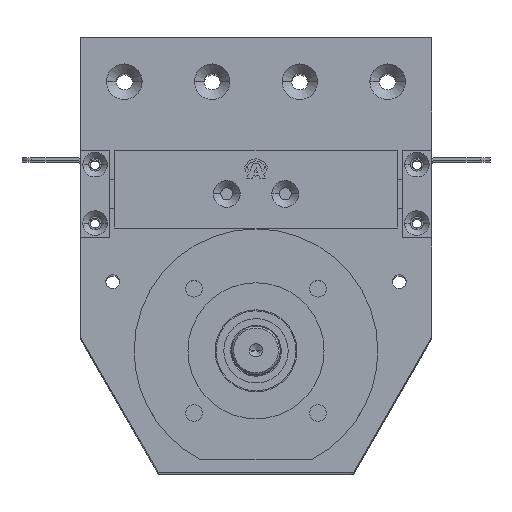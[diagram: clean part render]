
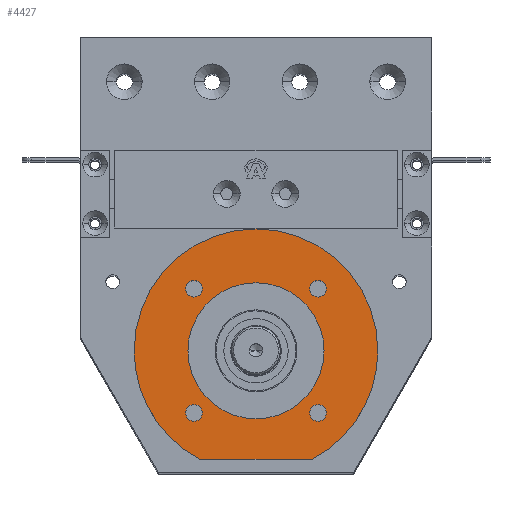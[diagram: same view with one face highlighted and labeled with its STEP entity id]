
A CAD part, top view. The second image highlights one B-rep face of the part: STEP entity #4427.
In plain terms, the highlighted planar face has unit normal (0, 0, 1) as drawn and (-1, 0, 0) by its records, which use the part's own axes.
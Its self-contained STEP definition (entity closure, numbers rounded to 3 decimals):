
#51 = DIRECTION ( 'NONE',  ( 0., 0., -1. ) ) ;
#104 = ORIENTED_EDGE ( 'NONE', *, *, #4529, .T. ) ;
#514 = CARTESIAN_POINT ( 'NONE',  ( 2., 0., -34.9 ) ) ;
#681 = PLANE ( 'NONE',  #20169 ) ;
#877 = CARTESIAN_POINT ( 'NONE',  ( 2., 0., 0. ) ) ;
#980 = EDGE_CURVE ( 'NONE', #2643, #17027, #13432, .T. ) ;
#1224 = DIRECTION ( 'NONE',  ( 0., 0., -1. ) ) ;
#1255 = AXIS2_PLACEMENT_3D ( 'NONE', #13457, #3802, #15040 ) ;
#1256 = VERTEX_POINT ( 'NONE', #18487 ) ;
#1368 = DIRECTION ( 'NONE',  ( 1., 0., 0. ) ) ;
#1433 = DIRECTION ( 'NONE',  ( 0., 0., -1. ) ) ;
#1453 = DIRECTION ( 'NONE',  ( 0., 0., -1. ) ) ;
#1651 = CARTESIAN_POINT ( 'NONE',  ( 2., 31.82, 31.82 ) ) ;
#1753 = EDGE_CURVE ( 'NONE', #3502, #5515, #11917, .T. ) ;
#2113 = VERTEX_POINT ( 'NONE', #3799 ) ;
#2474 = DIRECTION ( 'NONE',  ( 0., 0., 1. ) ) ;
#2594 = CARTESIAN_POINT ( 'NONE',  ( 2., -31.82, -31.82 ) ) ;
#2608 = CARTESIAN_POINT ( 'NONE',  ( 2., -31.82, 36.07 ) ) ;
#2643 = VERTEX_POINT ( 'NONE', #514 ) ;
#2650 = ORIENTED_EDGE ( 'NONE', *, *, #14917, .T. ) ;
#2743 = ORIENTED_EDGE ( 'NONE', *, *, #7152, .T. ) ;
#2878 = CARTESIAN_POINT ( 'NONE',  ( 2., 31.82, 31.82 ) ) ;
#3224 = VERTEX_POINT ( 'NONE', #16177 ) ;
#3502 = VERTEX_POINT ( 'NONE', #8990 ) ;
#3799 = CARTESIAN_POINT ( 'NONE',  ( 2., 31.82, 36.07 ) ) ;
#3802 = DIRECTION ( 'NONE',  ( 1., 0., 0. ) ) ;
#3819 = CIRCLE ( 'NONE', #18875, 4.25 ) ;
#4036 = CARTESIAN_POINT ( 'NONE',  ( 2., -31.82, -27.57 ) ) ;
#4133 = DIRECTION ( 'NONE',  ( 0., 0., 1. ) ) ;
#4160 = DIRECTION ( 'NONE',  ( 0., 0., 1. ) ) ;
#4175 = DIRECTION ( 'NONE',  ( -1., 0., 0. ) ) ;
#4238 = DIRECTION ( 'NONE',  ( 0., 0., 1. ) ) ;
#4427 = ADVANCED_FACE ( 'NONE', ( #14293, #14524, #7972, #16026, #11779, #9980 ), #681, .F. ) ;
#4529 = EDGE_CURVE ( 'NONE', #4575, #20040, #9490, .T. ) ;
#4575 = VERTEX_POINT ( 'NONE', #2608 ) ;
#4964 = EDGE_LOOP ( 'NONE', ( #9466, #15178, #6136, #19816 ) ) ;
#5447 = CIRCLE ( 'NONE', #19635, 62.5 ) ;
#5515 = VERTEX_POINT ( 'NONE', #19457 ) ;
#5888 = DIRECTION ( 'NONE',  ( 1., 0., 0. ) ) ;
#5899 = EDGE_CURVE ( 'NONE', #5515, #3502, #14974, .T. ) ;
#5973 = CARTESIAN_POINT ( 'NONE',  ( 2., -31.82, 27.57 ) ) ;
#6136 = ORIENTED_EDGE ( 'NONE', *, *, #9358, .T. ) ;
#6263 = DIRECTION ( 'NONE',  ( 1., 0., 0. ) ) ;
#6347 = ORIENTED_EDGE ( 'NONE', *, *, #980, .F. ) ;
#6678 = DIRECTION ( 'NONE',  ( 0., 0., -1. ) ) ;
#7152 = EDGE_CURVE ( 'NONE', #18864, #2113, #19417, .T. ) ;
#7557 = CIRCLE ( 'NONE', #11389, 62.5 ) ;
#7565 = EDGE_CURVE ( 'NONE', #20040, #4575, #17145, .T. ) ;
#7708 = AXIS2_PLACEMENT_3D ( 'NONE', #9012, #18707, #15768 ) ;
#7972 = FACE_BOUND ( 'NONE', #17429, .T. ) ;
#8525 = AXIS2_PLACEMENT_3D ( 'NONE', #2878, #15795, #17404 ) ;
#8562 = CARTESIAN_POINT ( 'NONE',  ( 2., -55.5, 28.74 ) ) ;
#8782 = CARTESIAN_POINT ( 'NONE',  ( 2., 0., 0. ) ) ;
#8859 = DIRECTION ( 'NONE',  ( 0., 0., 1. ) ) ;
#8926 = CIRCLE ( 'NONE', #17872, 4.25 ) ;
#8990 = CARTESIAN_POINT ( 'NONE',  ( 2., 31.82, -36.07 ) ) ;
#9012 = CARTESIAN_POINT ( 'NONE',  ( 2., -31.82, 31.82 ) ) ;
#9121 = CIRCLE ( 'NONE', #17133, 62.5 ) ;
#9358 = EDGE_CURVE ( 'NONE', #14867, #16074, #7557, .T. ) ;
#9466 = ORIENTED_EDGE ( 'NONE', *, *, #17037, .T. ) ;
#9490 = CIRCLE ( 'NONE', #1255, 4.25 ) ;
#9579 = CARTESIAN_POINT ( 'NONE',  ( 2., 31.82, 27.57 ) ) ;
#9628 = EDGE_CURVE ( 'NONE', #17024, #16074, #16362, .T. ) ;
#9678 = DIRECTION ( 'NONE',  ( 1., 0., 0. ) ) ;
#9904 = CARTESIAN_POINT ( 'NONE',  ( 2., -31.82, -31.82 ) ) ;
#9980 = FACE_OUTER_BOUND ( 'NONE', #4964, .T. ) ;
#10522 = CIRCLE ( 'NONE', #17046, 4.25 ) ;
#11389 = AXIS2_PLACEMENT_3D ( 'NONE', #20429, #20218, #4160 ) ;
#11481 = ORIENTED_EDGE ( 'NONE', *, *, #19369, .F. ) ;
#11779 = FACE_BOUND ( 'NONE', #14703, .T. ) ;
#11917 = CIRCLE ( 'NONE', #19671, 4.25 ) ;
#11970 = CARTESIAN_POINT ( 'NONE',  ( 2., -55.5, 28.74 ) ) ;
#12035 = AXIS2_PLACEMENT_3D ( 'NONE', #12670, #1368, #1433 ) ;
#12108 = DIRECTION ( 'NONE',  ( -1., 0., 0. ) ) ;
#12421 = EDGE_LOOP ( 'NONE', ( #20313, #20701 ) ) ;
#12591 = AXIS2_PLACEMENT_3D ( 'NONE', #15247, #4175, #4238 ) ;
#12670 = CARTESIAN_POINT ( 'NONE',  ( 2., 31.82, -31.82 ) ) ;
#12996 = AXIS2_PLACEMENT_3D ( 'NONE', #8782, #18553, #8859 ) ;
#13432 = CIRCLE ( 'NONE', #12996, 34.9 ) ;
#13457 = CARTESIAN_POINT ( 'NONE',  ( 2., -31.82, 31.82 ) ) ;
#13496 = DIRECTION ( 'NONE',  ( -1., 0., 0. ) ) ;
#13509 = CARTESIAN_POINT ( 'NONE',  ( 2., 0., -62.5 ) ) ;
#13597 = DIRECTION ( 'NONE',  ( 1., 0., 0. ) ) ;
#13889 = VECTOR ( 'NONE', #16291, 1000. ) ;
#13998 = EDGE_CURVE ( 'NONE', #1256, #16415, #10522, .T. ) ;
#14232 = CARTESIAN_POINT ( 'NONE',  ( 2., 31.82, -31.82 ) ) ;
#14293 = FACE_BOUND ( 'NONE', #14346, .T. ) ;
#14346 = EDGE_LOOP ( 'NONE', ( #16845, #2650 ) ) ;
#14524 = FACE_BOUND ( 'NONE', #17350, .T. ) ;
#14703 = EDGE_LOOP ( 'NONE', ( #11481, #6347 ) ) ;
#14867 = VERTEX_POINT ( 'NONE', #13509 ) ;
#14903 = CIRCLE ( 'NONE', #12591, 34.9 ) ;
#14917 = EDGE_CURVE ( 'NONE', #16415, #1256, #8926, .T. ) ;
#14974 = CIRCLE ( 'NONE', #12035, 4.25 ) ;
#15040 = DIRECTION ( 'NONE',  ( 0., 0., -1. ) ) ;
#15092 = CARTESIAN_POINT ( 'NONE',  ( 2., 0., 34.9 ) ) ;
#15178 = ORIENTED_EDGE ( 'NONE', *, *, #18742, .T. ) ;
#15247 = CARTESIAN_POINT ( 'NONE',  ( 2., 0., 0. ) ) ;
#15768 = DIRECTION ( 'NONE',  ( 0., 0., -1. ) ) ;
#15795 = DIRECTION ( 'NONE',  ( 1., 0., 0. ) ) ;
#16026 = FACE_BOUND ( 'NONE', #12421, .T. ) ;
#16054 = CARTESIAN_POINT ( 'NONE',  ( 2., -55.5, -28.74 ) ) ;
#16074 = VERTEX_POINT ( 'NONE', #16054 ) ;
#16177 = CARTESIAN_POINT ( 'NONE',  ( 2., 0., 62.5 ) ) ;
#16291 = DIRECTION ( 'NONE',  ( 0., 0., -1. ) ) ;
#16362 = LINE ( 'NONE', #8562, #13889 ) ;
#16415 = VERTEX_POINT ( 'NONE', #4036 ) ;
#16654 = DIRECTION ( 'NONE',  ( 0., 0., -1. ) ) ;
#16845 = ORIENTED_EDGE ( 'NONE', *, *, #13998, .T. ) ;
#16857 = CARTESIAN_POINT ( 'NONE',  ( 2., 62.5, 0. ) ) ;
#17024 = VERTEX_POINT ( 'NONE', #11970 ) ;
#17027 = VERTEX_POINT ( 'NONE', #15092 ) ;
#17037 = EDGE_CURVE ( 'NONE', #17024, #3224, #5447, .T. ) ;
#17046 = AXIS2_PLACEMENT_3D ( 'NONE', #9904, #17989, #6678 ) ;
#17133 = AXIS2_PLACEMENT_3D ( 'NONE', #20188, #13496, #4133 ) ;
#17145 = CIRCLE ( 'NONE', #7708, 4.25 ) ;
#17350 = EDGE_LOOP ( 'NONE', ( #20340, #104 ) ) ;
#17404 = DIRECTION ( 'NONE',  ( 0., 0., -1. ) ) ;
#17429 = EDGE_LOOP ( 'NONE', ( #2743, #19989 ) ) ;
#17872 = AXIS2_PLACEMENT_3D ( 'NONE', #2594, #5888, #1224 ) ;
#17989 = DIRECTION ( 'NONE',  ( 1., 0., 0. ) ) ;
#18487 = CARTESIAN_POINT ( 'NONE',  ( 2., -31.82, -36.07 ) ) ;
#18553 = DIRECTION ( 'NONE',  ( -1., 0., 0. ) ) ;
#18707 = DIRECTION ( 'NONE',  ( 1., 0., 0. ) ) ;
#18742 = EDGE_CURVE ( 'NONE', #3224, #14867, #9121, .T. ) ;
#18864 = VERTEX_POINT ( 'NONE', #9579 ) ;
#18875 = AXIS2_PLACEMENT_3D ( 'NONE', #1651, #9678, #51 ) ;
#19369 = EDGE_CURVE ( 'NONE', #17027, #2643, #14903, .T. ) ;
#19417 = CIRCLE ( 'NONE', #8525, 4.25 ) ;
#19457 = CARTESIAN_POINT ( 'NONE',  ( 2., 31.82, -27.57 ) ) ;
#19635 = AXIS2_PLACEMENT_3D ( 'NONE', #877, #12108, #2474 ) ;
#19671 = AXIS2_PLACEMENT_3D ( 'NONE', #14232, #6263, #1453 ) ;
#19816 = ORIENTED_EDGE ( 'NONE', *, *, #9628, .F. ) ;
#19989 = ORIENTED_EDGE ( 'NONE', *, *, #20091, .T. ) ;
#20040 = VERTEX_POINT ( 'NONE', #5973 ) ;
#20091 = EDGE_CURVE ( 'NONE', #2113, #18864, #3819, .T. ) ;
#20169 = AXIS2_PLACEMENT_3D ( 'NONE', #16857, #13597, #16654 ) ;
#20188 = CARTESIAN_POINT ( 'NONE',  ( 2., 0., 0. ) ) ;
#20218 = DIRECTION ( 'NONE',  ( -1., 0., 0. ) ) ;
#20313 = ORIENTED_EDGE ( 'NONE', *, *, #1753, .T. ) ;
#20340 = ORIENTED_EDGE ( 'NONE', *, *, #7565, .T. ) ;
#20429 = CARTESIAN_POINT ( 'NONE',  ( 2., 0., 0. ) ) ;
#20701 = ORIENTED_EDGE ( 'NONE', *, *, #5899, .T. ) ;
